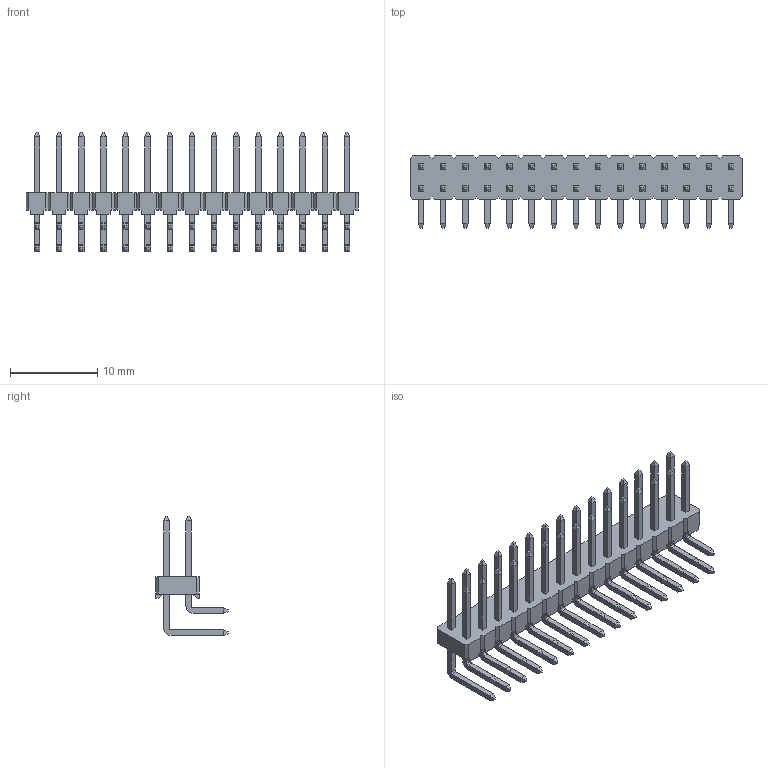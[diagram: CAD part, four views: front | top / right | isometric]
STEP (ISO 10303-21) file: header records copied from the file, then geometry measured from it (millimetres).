
FILE_DESCRIPTION(/* description */ (''),/* implementation_level */ '2;1');
FILE_NAME(/* name */ '961230-5804-XX',/* time_stamp */ '2007-06-18T13:50:11+02:00',/* author */ (''),/* organization */ (''),/* preprocessor_version */ 'ST-DEVELOPER v9',/* originating_system */ 'UGS - NX 4.0',/* authorisation */ '');
FILE_SCHEMA (('AUTOMOTIVE_DESIGN { 1 0 10303 214 1 1 1 1 }'));
Length unit declared in the file: millimetre
Products named in the file (1): 961230-5804-XX
Bounding box: 38.1 x 8.3 x 13.66 mm (x, y, z)
Volume: 569.8 mm3; surface area: 1757.6 mm2
Topology: 1 solids, 1 shells, 906 faces, 2292 edges, 1448 vertices
Faces by surface type: plane 846, cylinder 60
Entity records: 26460 total; most frequent: CARTESIAN_POINT 4647, ORIENTED_EDGE 4584, DIRECTION 4226, EDGE_CURVE 2292, LINE 2172, VECTOR 2172, VERTEX_POINT 1448, AXIS2_PLACEMENT_3D 1027
